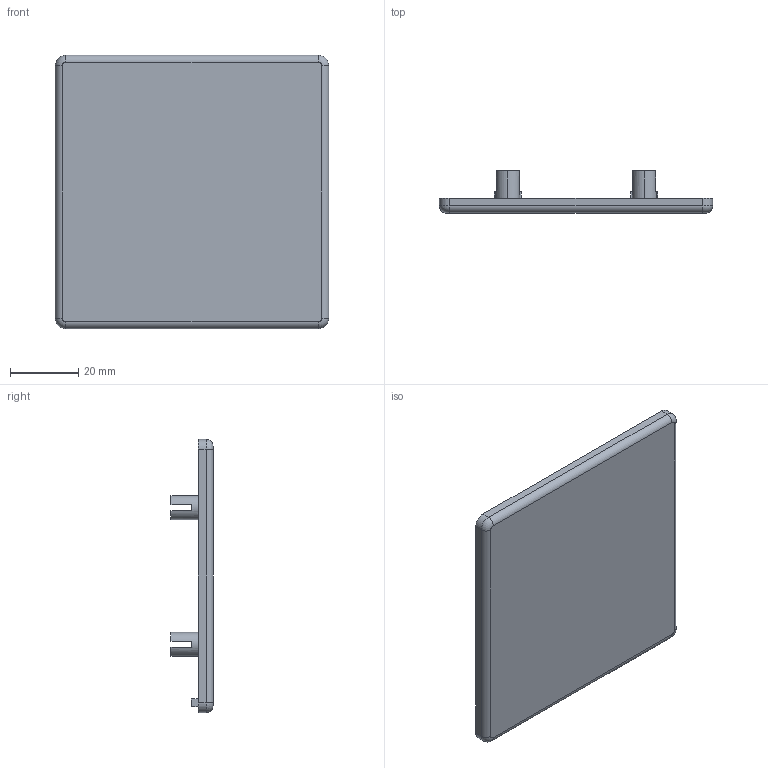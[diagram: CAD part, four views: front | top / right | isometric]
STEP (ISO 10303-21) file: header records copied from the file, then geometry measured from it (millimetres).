
FILE_DESCRIPTION (( 'STEP AP203' ), '1' );
FILE_NAME ('EC80X80.STEP', '2018-03-15T12:41:29', ( '' ), ( '' ), 'SwSTEP 2.0', 'SolidWorks 2013', '' );
FILE_SCHEMA (( 'CONFIG_CONTROL_DESIGN' ));
Length unit declared in the file: millimetre
Products named in the file (1): EC80X80
Bounding box: 80 x 12.3 x 80 mm (x, y, z)
Volume: 22919.8 mm3; surface area: 15439.7 mm2
Topology: 1 solids, 1 shells, 87 faces, 228 edges, 148 vertices
Faces by surface type: plane 55, cylinder 24, cone 4, torus 4
Entity records: 2771 total; most frequent: DIRECTION 492, CARTESIAN_POINT 464, ORIENTED_EDGE 456, EDGE_CURVE 228, AXIS2_PLACEMENT_3D 176, VERTEX_POINT 148, LINE 140, VECTOR 140
